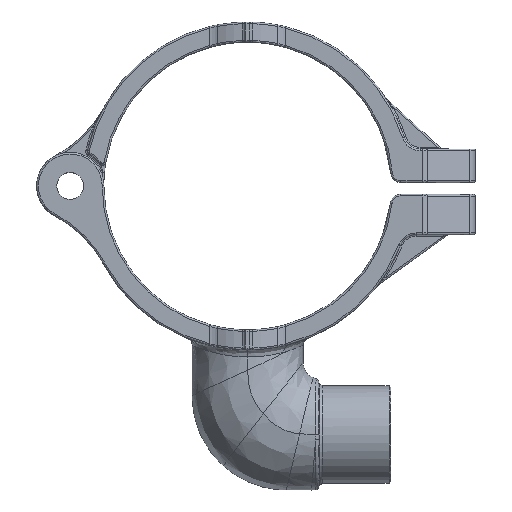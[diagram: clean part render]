
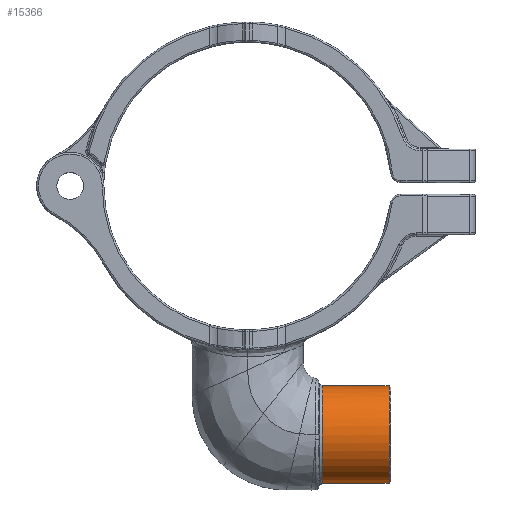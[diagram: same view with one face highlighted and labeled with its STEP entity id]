
A CAD part, top view. The second image highlights one B-rep face of the part: STEP entity #15366.
In plain terms, the highlighted cylindrical face has radius 14.673 mm (diameter 29.345 mm), a partial arc.
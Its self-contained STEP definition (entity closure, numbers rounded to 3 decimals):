
#5634=CARTESIAN_POINT('',(42.601,-74.881,0.));
#5635=DIRECTION('',(-1.,0.,0.));
#5636=DIRECTION('',(0.,-1.,0.));
#5637=AXIS2_PLACEMENT_3D('',#5634,#5635,#5636);
#5642=CARTESIAN_POINT('',(42.601,-74.881,0.));
#5643=DIRECTION('',(-1.,0.,0.));
#5644=DIRECTION('',(0.,0.,1.));
#5645=AXIS2_PLACEMENT_3D('',#5642,#5643,#5644);
#5673=DIRECTION('',(1.,0.,0.));
#5674=VECTOR('',#5673,20.069);
#5675=CARTESIAN_POINT('',(22.532,-60.208,0.));
#5676=LINE('',#5675,#5674);
#5680=DIRECTION('',(-1.,0.,0.));
#5681=VECTOR('',#5680,20.069);
#5682=CARTESIAN_POINT('',(42.601,-89.554,0.));
#5683=LINE('',#5682,#5681);
#5695=CARTESIAN_POINT('',(22.532,-74.881,0.));
#5696=DIRECTION('',(1.,0.,0.));
#5697=DIRECTION('',(0.,1.,0.));
#5698=AXIS2_PLACEMENT_3D('',#5695,#5696,#5697);
#5703=CARTESIAN_POINT('',(22.532,-74.881,0.));
#5704=DIRECTION('',(1.,0.,0.));
#5705=DIRECTION('',(0.,1.,0.021));
#5706=AXIS2_PLACEMENT_3D('',#5703,#5704,#5705);
#8686=CARTESIAN_POINT('',(42.601,-89.554,0.));
#8687=VERTEX_POINT('',#8686);
#8688=CARTESIAN_POINT('',(42.601,-74.881,14.673));
#8689=VERTEX_POINT('',#8688);
#8690=CARTESIAN_POINT('',(42.601,-60.208,0.));
#8691=VERTEX_POINT('',#8690);
#8694=CARTESIAN_POINT('',(22.532,-89.554,0.));
#8695=VERTEX_POINT('',#8694);
#8696=CARTESIAN_POINT('',(22.532,-60.208,0.));
#8697=VERTEX_POINT('',#8696);
#8700=CARTESIAN_POINT('',(22.532,-60.211,
0.302));
#8701=VERTEX_POINT('',#8700);
#15351=CARTESIAN_POINT('',(21.27,-74.881,0.));
#15352=DIRECTION('',(1.,0.,0.));
#15353=DIRECTION('',(0.,1.,0.));
#15354=AXIS2_PLACEMENT_3D('',#15351,#15352,#15353);
#15355=CYLINDRICAL_SURFACE('',#15354,14.673);
#15356=ORIENTED_EDGE('',*,*,#15342,.T.);
#15357=ORIENTED_EDGE('',*,*,#15308,.F.);
#15358=ORIENTED_EDGE('',*,*,#15306,.F.);
#15359=ORIENTED_EDGE('',*,*,#15338,.T.);
#15361=ORIENTED_EDGE('',*,*,#15360,.F.);
#15363=ORIENTED_EDGE('',*,*,#15362,.F.);
#15364=EDGE_LOOP('',(#15356,#15357,#15358,#15359,#15361,#15363));
#15365=FACE_OUTER_BOUND('',#15364,.F.);
#5638=CIRCLE('',#5637,14.673);
#5646=CIRCLE('',#5645,14.673);
#5699=CIRCLE('',#5698,14.673);
#5707=CIRCLE('',#5706,14.673);
#15306=EDGE_CURVE('',#8687,#8689,#5638,.T.);
#15308=EDGE_CURVE('',#8689,#8691,#5646,.T.);
#15338=EDGE_CURVE('',#8687,#8695,#5683,.T.);
#15342=EDGE_CURVE('',#8697,#8691,#5676,.T.);
#15360=EDGE_CURVE('',#8701,#8695,#5707,.T.);
#15362=EDGE_CURVE('',#8697,#8701,#5699,.T.);
#15366=ADVANCED_FACE('',(#15365),#15355,.T.);
